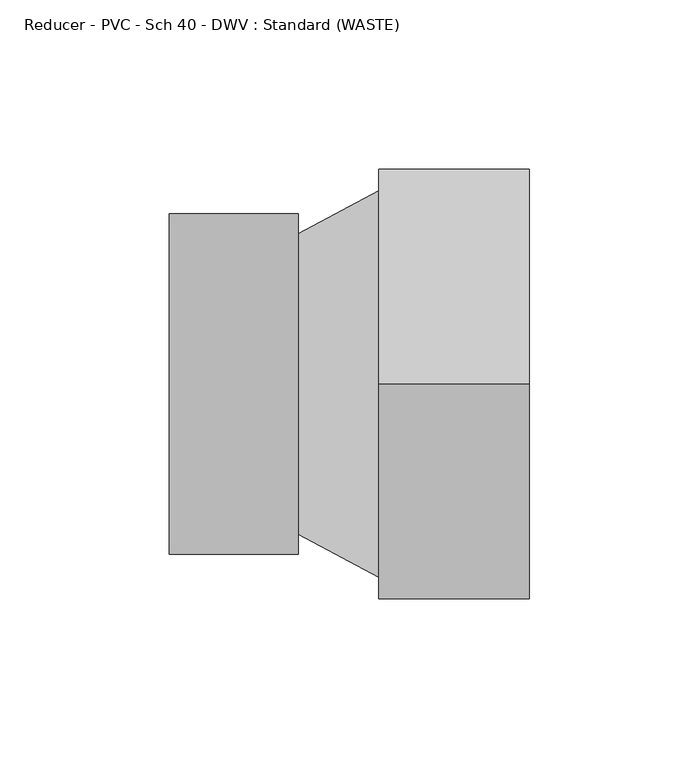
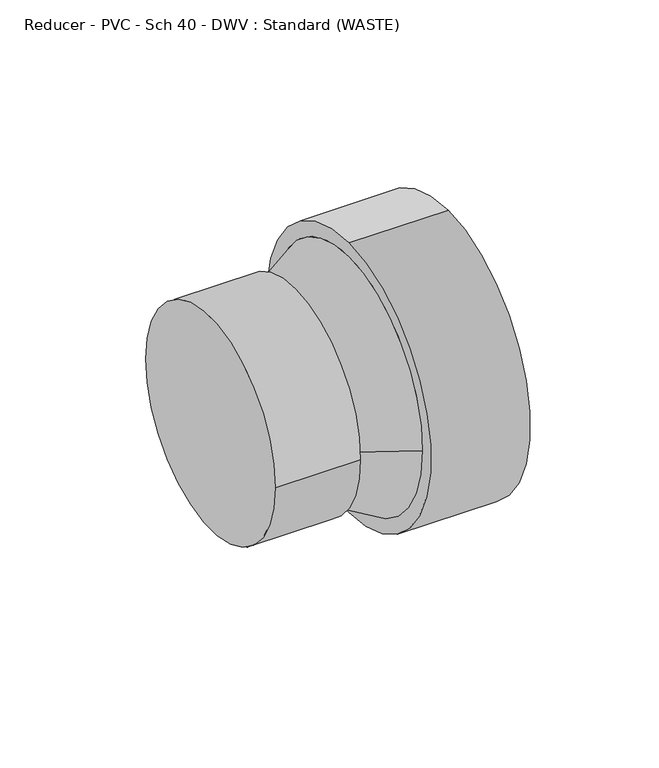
"""IFC4 building model written with IfcOpenShell, lengths in millimetres: pipe fitting geometry, Reducer - PVC - Sch 40 - DWV : Standard (WASTE)."""

from ifc_helpers import new_model, si_unit, frame, origin, place, context, project, spatial, polyline, circle_curve, source, transform, mapped, element, save
from ifc_brep_helpers import plane_surface, cylinder_surface, revolved_surface, advanced_brep


def reducer_pvc_sch_40_dwv_standard_waste_e69e3e70(model_context):
    return source(origin(), model_context, "Body", "AdvancedBrep", [
        advanced_brep(
        [(0.0, -50.2666, 0.0), (0.0, 50.2666, 0.0), (38.1, -50.2666, 0.0), (38.1, 50.2666, 0.0), (38.1, 44.45, 0.0), (38.1, -44.45, 0.0), (61.9252, 57.15, 0.0), (61.9252, -57.15, 0.0), (61.9252, 0.0, 63.754), (61.9252, 0.0, -63.754), (106.3752, 0.0, 63.754), (106.3752, 0.0, -63.754)],
        [
            (0, 1, circle_curve(frame((0.0, 0.0, 0.0), z_axis=(-1.0, 0.0, 0.0), x_axis=(0.0, 1.0, 0.0)), 50.2666)),
            (1, 0, circle_curve(frame((0.0, 0.0, 0.0), z_axis=(-1.0, 0.0, 0.0), x_axis=(0.0, 1.0, 0.0)), 50.2666)),
            (2, 3, circle_curve(frame((38.1, 0.0, 0.0), z_axis=(1.0, 0.0, 0.0), x_axis=(0.0, 1.0, 0.0)), 50.2666)),
            (3, 2, circle_curve(frame((38.1, 0.0, 0.0), z_axis=(1.0, 0.0, 0.0), x_axis=(0.0, 1.0, 0.0)), 50.2666)),
            (4, 5, circle_curve(frame((38.1, 0.0, 0.0), z_axis=(-1.0, 0.0, 0.0), x_axis=(0.0, -1.0, 0.0)), 44.45)),
            (5, 4, circle_curve(frame((38.1, 0.0, 0.0), z_axis=(-1.0, 0.0, 0.0), x_axis=(0.0, 1.0, 0.0)), 44.45)),
            (0, 2),
            (3, 1),
            (4, 6),
            (6, 7, circle_curve(frame((61.9252, 0.0, 0.0), z_axis=(-1.0, 0.0, 0.0), x_axis=(0.0, -1.0, 0.0)), 57.15)),
            (7, 5),
            (7, 6, circle_curve(frame((61.9252, 0.0, 0.0), z_axis=(-1.0, 0.0, 0.0), x_axis=(0.0, 1.0, 0.0)), 57.15)),
            (8, 9, circle_curve(frame((61.9252, 0.0, 0.0), z_axis=(-1.0, 0.0, 0.0), x_axis=(0.0, 0.0, -1.0)), 63.754)),
            (9, 8, circle_curve(frame((61.9252, 0.0, 0.0), z_axis=(-1.0, 0.0, 0.0), x_axis=(0.0, 0.0, -1.0)), 63.754)),
            (10, 11, circle_curve(frame((106.3752, 0.0, 0.0), z_axis=(1.0, 0.0, 0.0), x_axis=(0.0, 0.0, -1.0)), 63.754)),
            (11, 10, circle_curve(frame((106.3752, 0.0, 0.0), z_axis=(1.0, 0.0, 0.0), x_axis=(0.0, 0.0, -1.0)), 63.754)),
            (8, 10),
            (11, 9),
        ],
        [
            plane_surface(frame((0.0, 0.0, 0.0), z_axis=(-1.0, 0.0, 0.0), x_axis=(0.0, 0.0, 1.0))),
            plane_surface(frame((38.1, 0.0, 0.0), z_axis=(1.0, 0.0, 0.0), x_axis=(0.0, 0.0, 1.0))),
            cylinder_surface(frame((0.0, 0.0, 0.0), z_axis=(-1.0, 0.0, 0.0), x_axis=(0.0, 1.0, 0.0)), 50.2666),
            revolved_surface(polyline([(38.10000000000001, 44.45, 0.0), (61.925200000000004, 57.15, 0.0)]), (-45.2882, 0.0, 0.0), (1.0, 0.0, 0.0)),
            plane_surface(frame((61.9252, 0.0, 0.0), z_axis=(-1.0, 0.0, 0.0), x_axis=(0.0, 1.0, 0.0))),
            plane_surface(frame((106.3752, 0.0, 0.0), z_axis=(1.0, 0.0, 0.0), x_axis=(0.0, 1.0, 0.0))),
            cylinder_surface(frame((61.9252, 0.0, 0.0), z_axis=(-1.0, 0.0, 0.0), x_axis=(0.0, 0.0, -1.0)), 63.754),
        ],
        [
            (0, [[1, 2]]),
            (1, [[3, 4], [5, 6]]),
            (2, [[-1, 7, -4, 8]]),
            (2, [[-2, -8, -3, -7]]),
            (3, [[9, 10, 11, -5]]),
            (3, [[-9, -6, -11, 12]]),
            (4, [[13, 14], [-10, -12]]),
            (5, [[15, 16]]),
            (6, [[-13, 17, -16, 18]]),
            (6, [[-14, -18, -15, -17]]),
        ],
    ),
        advanced_brep(
        [(0.0, -50.2666, 0.0), (0.0, 50.2666, 0.0), (38.1, -50.2666, 0.0), (38.1, 50.2666, 0.0), (38.1, 44.45, 0.0), (38.1, -44.45, 0.0), (61.9252, 57.15, 0.0), (61.9252, -57.15, 0.0), (61.9252, 0.0, 63.754), (61.9252, 0.0, -63.754), (106.3752, 0.0, 63.754), (106.3752, 0.0, -63.754)],
        [
            (0, 1, circle_curve(frame((0.0, 0.0, 0.0), z_axis=(-1.0, 0.0, 0.0), x_axis=(0.0, 1.0, 0.0)), 50.2666)),
            (1, 0, circle_curve(frame((0.0, 0.0, 0.0), z_axis=(-1.0, 0.0, 0.0), x_axis=(0.0, 1.0, 0.0)), 50.2666)),
            (2, 3, circle_curve(frame((38.1, 0.0, 0.0), z_axis=(1.0, 0.0, 0.0), x_axis=(0.0, 1.0, 0.0)), 50.2666)),
            (3, 2, circle_curve(frame((38.1, 0.0, 0.0), z_axis=(1.0, 0.0, 0.0), x_axis=(0.0, 1.0, 0.0)), 50.2666)),
            (4, 5, circle_curve(frame((38.1, 0.0, 0.0), z_axis=(-1.0, 0.0, 0.0), x_axis=(0.0, -1.0, 0.0)), 44.45)),
            (5, 4, circle_curve(frame((38.1, 0.0, 0.0), z_axis=(-1.0, 0.0, 0.0), x_axis=(0.0, 1.0, 0.0)), 44.45)),
            (0, 2),
            (3, 1),
            (4, 6),
            (6, 7, circle_curve(frame((61.9252, 0.0, 0.0), z_axis=(-1.0, 0.0, 0.0), x_axis=(0.0, -1.0, 0.0)), 57.15)),
            (7, 5),
            (7, 6, circle_curve(frame((61.9252, 0.0, 0.0), z_axis=(-1.0, 0.0, 0.0), x_axis=(0.0, 1.0, 0.0)), 57.15)),
            (8, 9, circle_curve(frame((61.9252, 0.0, 0.0), z_axis=(-1.0, 0.0, 0.0), x_axis=(0.0, 0.0, -1.0)), 63.754)),
            (9, 8, circle_curve(frame((61.9252, 0.0, 0.0), z_axis=(-1.0, 0.0, 0.0), x_axis=(0.0, 0.0, -1.0)), 63.754)),
            (10, 11, circle_curve(frame((106.3752, 0.0, 0.0), z_axis=(1.0, 0.0, 0.0), x_axis=(0.0, 0.0, -1.0)), 63.754)),
            (11, 10, circle_curve(frame((106.3752, 0.0, 0.0), z_axis=(1.0, 0.0, 0.0), x_axis=(0.0, 0.0, -1.0)), 63.754)),
            (8, 10),
            (11, 9),
        ],
        [
            plane_surface(frame((0.0, 0.0, 0.0), z_axis=(-1.0, 0.0, 0.0), x_axis=(0.0, 0.0, 1.0))),
            plane_surface(frame((38.1, 0.0, 0.0), z_axis=(1.0, 0.0, 0.0), x_axis=(0.0, 0.0, 1.0))),
            cylinder_surface(frame((0.0, 0.0, 0.0), z_axis=(-1.0, 0.0, 0.0), x_axis=(0.0, 1.0, 0.0)), 50.2666),
            revolved_surface(polyline([(38.10000000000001, 44.45, 0.0), (61.925200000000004, 57.15, 0.0)]), (-45.2882, 0.0, 0.0), (1.0, 0.0, 0.0)),
            plane_surface(frame((61.9252, 0.0, 0.0), z_axis=(-1.0, 0.0, 0.0), x_axis=(0.0, 1.0, 0.0))),
            plane_surface(frame((106.3752, 0.0, 0.0), z_axis=(1.0, 0.0, 0.0), x_axis=(0.0, 1.0, 0.0))),
            cylinder_surface(frame((61.9252, 0.0, 0.0), z_axis=(-1.0, 0.0, 0.0), x_axis=(0.0, 0.0, -1.0)), 63.754),
        ],
        [
            (0, [[1, 2]]),
            (1, [[3, 4], [5, 6]]),
            (2, [[-1, 7, -4, 8]]),
            (2, [[-2, -8, -3, -7]]),
            (3, [[9, 10, 11, -5]]),
            (3, [[-9, -6, -11, 12]]),
            (4, [[13, 14], [-10, -12]]),
            (5, [[15, 16]]),
            (6, [[-13, 17, -16, 18]]),
            (6, [[-14, -18, -15, -17]]),
        ],
    ),
    ])


if __name__ == "__main__":
    model = new_model("IFC4")
    model_context = context("Model", 3, world=origin())
    ifc_project = project(units=[si_unit("LENGTHUNIT", "METRE", prefix="MILLI")], contexts=[model_context])
    site = spatial("IfcSite", under=ifc_project)
    building = spatial("IfcBuilding", under=site)
    placement = place(None, origin())
    reducer_pvc_sch_40_dwv_standard_waste_shape = reducer_pvc_sch_40_dwv_standard_waste_e69e3e70(model_context)
    element("IfcPipeFitting", 1, ObjectType="Reducer - PVC - Sch 40 - DWV : Standard (WASTE)", at=placement, inside=building, context=model_context, shape_type="MappedRepresentation", body=[
        mapped(reducer_pvc_sch_40_dwv_standard_waste_shape, transform((0.0, 0.0, 0.0), x_axis=(1.0, 0.0, 0.0), y_axis=(0.0, 1.0, 0.0), z_axis=(0.0, 0.0, 1.0))),
    ])
    save(model, "model.ifc")
